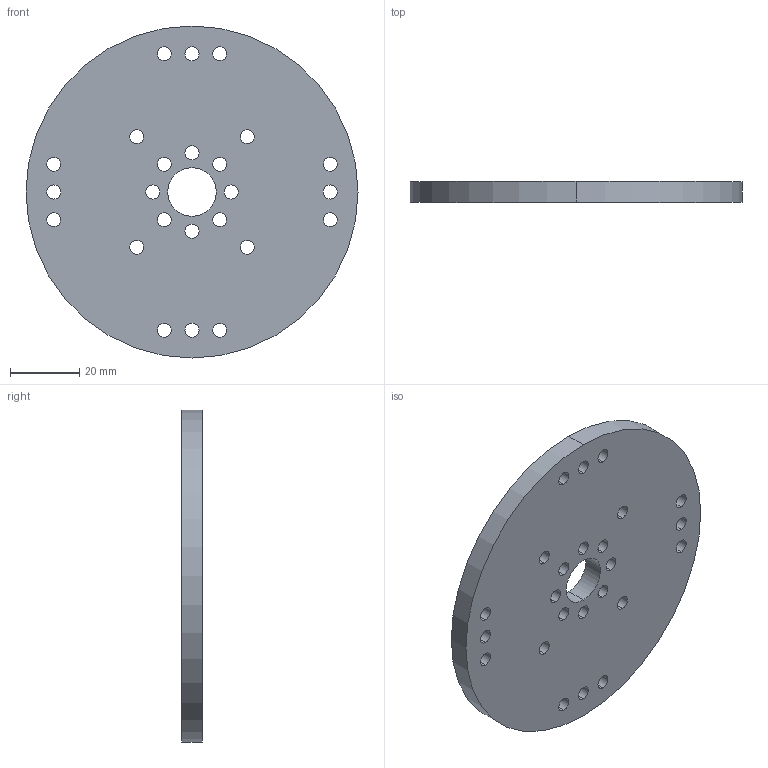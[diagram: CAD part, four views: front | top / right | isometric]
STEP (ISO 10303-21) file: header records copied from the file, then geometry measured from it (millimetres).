
FILE_DESCRIPTION (( 'STEP AP203' ), '1' );
FILE_NAME ('1919-0014-0096.STEP', '2021-05-27T18:32:14', ( '' ), ( '' ), 'SwSTEP 2.0', 'SolidWorks 2016', '' );
FILE_SCHEMA (( 'CONFIG_CONTROL_DESIGN' ));
Length unit declared in the file: millimetre
Products named in the file (1): 1919-0014-0096
Bounding box: 96 x 6 x 96 mm (x, y, z)
Volume: 40650.7 mm3; surface area: 17455.9 mm2
Topology: 1 solids, 1 shells, 54 faces, 156 edges, 104 vertices
Faces by surface type: cylinder 52, plane 2
Entity records: 2021 total; most frequent: DIRECTION 370, CARTESIAN_POINT 315, ORIENTED_EDGE 312, AXIS2_PLACEMENT_3D 159, EDGE_CURVE 156, EDGE_LOOP 104, VERTEX_POINT 104, CIRCLE 104
